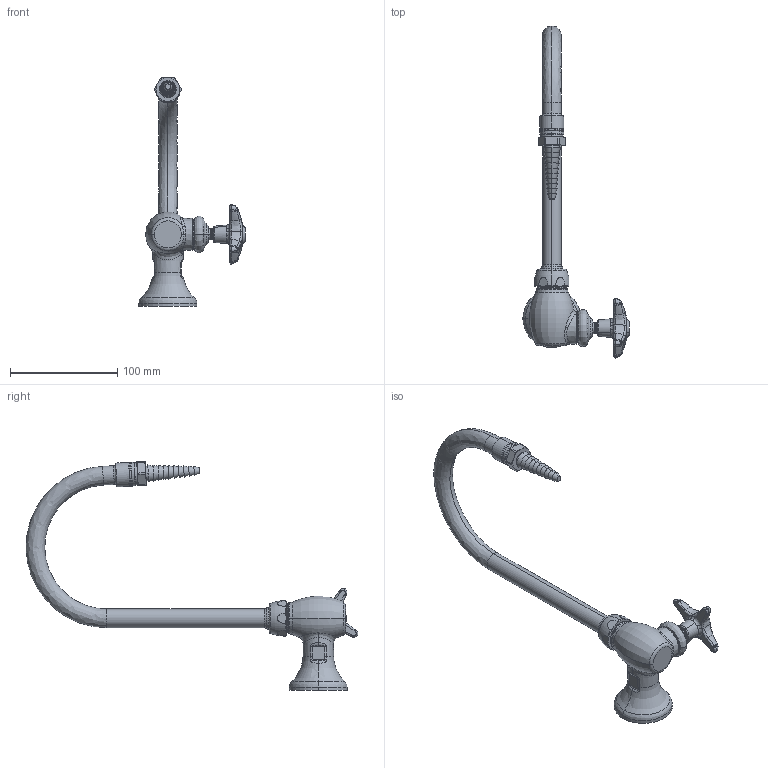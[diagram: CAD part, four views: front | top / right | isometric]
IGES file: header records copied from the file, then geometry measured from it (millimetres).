
Start section:  PTC IGES file: LWS4-C13-A.igs
Global section: file name: LWS4-C13-A.igs; native system: Creo Parametric by PTC Inc.; preprocessor: 2014500; author: usch_engrender; organization: Unknown; date: 20151207.173904; units: inch
Bounding box: 99.14 x 309.83 x 213.71 mm (x, y, z)
Volume: 190677.4 mm3; surface area: 67116.1 mm2
Topology: 1 solids, 2 shells, 353 faces, 784 edges, 457 vertices
Faces by surface type: bspline 191, revolution 162
